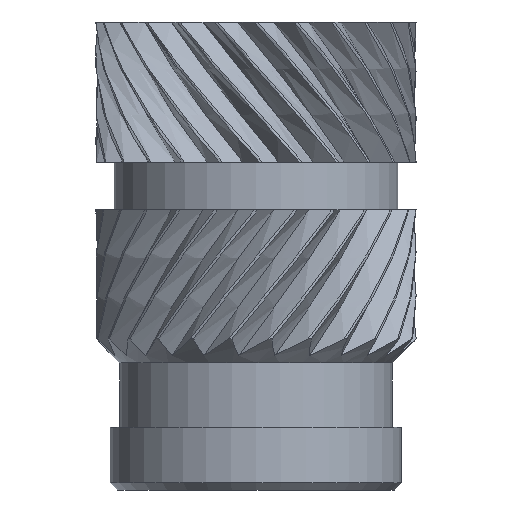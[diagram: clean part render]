
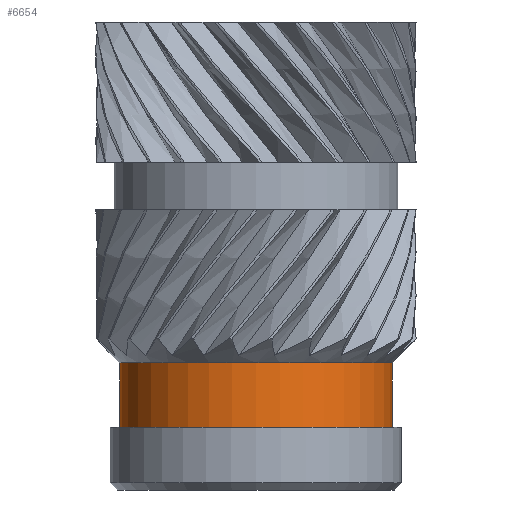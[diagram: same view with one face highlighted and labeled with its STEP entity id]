
A CAD part, front view. The second image highlights one B-rep face of the part: STEP entity #6654.
In plain terms, the highlighted cylindrical face has radius 3.7 mm (diameter 7.4 mm), a full revolution.
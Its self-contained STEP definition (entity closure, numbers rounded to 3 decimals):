
#520=FACE_OUTER_BOUND('',#906,.T.);
#906=EDGE_LOOP('',(#5363,#5364,#5365,#5366));
#1148=CIRCLE('',#6949,3.7);
#1187=CIRCLE('',#7015,3.7);
#1859=LINE('',#14246,#2193);
#2193=VECTOR('',#7598,3.7);
#2679=VERTEX_POINT('',#9805);
#2790=VERTEX_POINT('',#11502);
#3414=EDGE_CURVE('',#2679,#2679,#1148,.T.);
#3598=EDGE_CURVE('',#2790,#2790,#1187,.T.);
#3759=EDGE_CURVE('',#2679,#2790,#1859,.T.);
#5363=ORIENTED_EDGE('',*,*,#3414,.F.);
#5364=ORIENTED_EDGE('',*,*,#3759,.T.);
#5365=ORIENTED_EDGE('',*,*,#3598,.T.);
#5366=ORIENTED_EDGE('',*,*,#3759,.F.);
#6463=CYLINDRICAL_SURFACE('',#7073,3.7);
#6654=ADVANCED_FACE('',(#520),#6463,.T.);
#6949=AXIS2_PLACEMENT_3D('',#9807,#7344,#7345);
#7015=AXIS2_PLACEMENT_3D('',#11503,#7476,#7477);
#7073=AXIS2_PLACEMENT_3D('',#14245,#7596,#7597);
#7344=DIRECTION('center_axis',(0.,0.,1.));
#7345=DIRECTION('ref_axis',(1.,0.,0.));
#7476=DIRECTION('center_axis',(0.,0.,1.));
#7477=DIRECTION('ref_axis',(1.,0.,0.));
#7596=DIRECTION('center_axis',(0.,0.,1.));
#7597=DIRECTION('ref_axis',(1.,0.,0.));
#7598=DIRECTION('',(0.,0.,-1.));
#9805=CARTESIAN_POINT('',(-3.7,0.,3.45));
#9807=CARTESIAN_POINT('Origin',(0.,0.,3.45));
#11502=CARTESIAN_POINT('',(-3.7,0.,1.7));
#11503=CARTESIAN_POINT('Origin',(0.,0.,1.7));
#14245=CARTESIAN_POINT('Origin',(0.,0.,2.575));
#14246=CARTESIAN_POINT('',(-3.7,0.,2.575));
